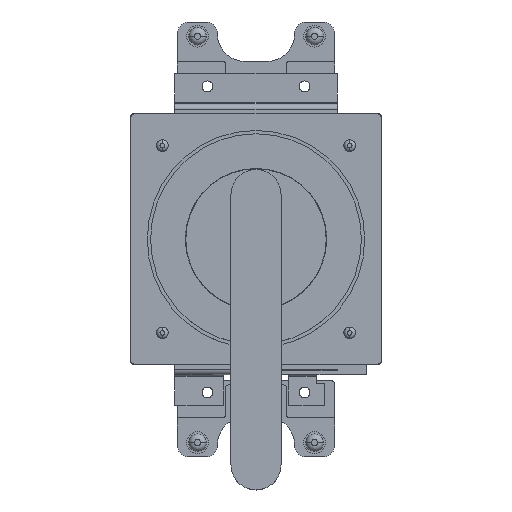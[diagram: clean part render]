
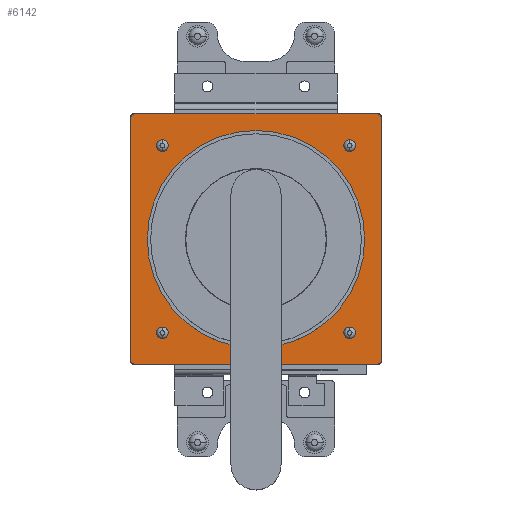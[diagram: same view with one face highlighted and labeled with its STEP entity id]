
A CAD part, top view. The second image highlights one B-rep face of the part: STEP entity #6142.
In plain terms, the highlighted planar face has unit normal (0, 0, 1).
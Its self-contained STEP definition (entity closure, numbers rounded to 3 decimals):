
#2654 = EDGE_CURVE( '', #7066, #5532, #7597, .T. );
#2798 = EDGE_CURVE( '', #6662, #6876, #7753, .T. );
#2822 = EDGE_CURVE( '', #4652, #6678, #7779, .T. );
#2858 = EDGE_CURVE( '', #5400, #6804, #7820, .T. );
#3184 = VERTEX_POINT( '', #8193 );
#3490 = VERTEX_POINT( '', #8526 );
#3566 = EDGE_CURVE( '', #5532, #4652, #8606, .T. );
#3856 = EDGE_CURVE( '', #4114, #7066, #8930, .T. );
#3936 = EDGE_CURVE( '', #5810, #6738, #9013, .T. );
#4114 = VERTEX_POINT( '', #9211 );
#4136 = EDGE_CURVE( '', #4694, #3490, #9235, .T. );
#4150 = EDGE_CURVE( '', #6876, #6662, #9249, .T. );
#4348 = VERTEX_POINT( '', #9463 );
#4594 = VERTEX_POINT( '', #9731 );
#4652 = VERTEX_POINT( '', #9799 );
#4694 = VERTEX_POINT( '', #9847 );
#4884 = EDGE_CURVE( '', #6804, #5400, #10052, .T. );
#5254 = EDGE_CURVE( '', #3490, #4694, #10467, .T. );
#5266 = VERTEX_POINT( '', #10481 );
#5400 = VERTEX_POINT( '', #10628 );
#5532 = VERTEX_POINT( '', #10775 );
#5674 = EDGE_CURVE( '', #4594, #4114, #10933, .T. );
#5710 = EDGE_CURVE( '', #4348, #5266, #10981, .T. );
#5738 = VERTEX_POINT( '', #11011 );
#5810 = VERTEX_POINT( '', #11094 );
#6142 = ADVANCED_FACE( '', ( #11469, #11470, #11471, #11472, #11473, #11474 ), #11475, .T. );
#6186 = EDGE_CURVE( '', #6678, #5738, #11521, .T. );
#6662 = VERTEX_POINT( '', #12053 );
#6678 = VERTEX_POINT( '', #12070 );
#6738 = VERTEX_POINT( '', #12134 );
#6804 = VERTEX_POINT( '', #12204 );
#6876 = VERTEX_POINT( '', #12285 );
#6962 = EDGE_CURVE( '', #3184, #4594, #12380, .T. );
#7066 = VERTEX_POINT( '', #12500 );
#7080 = EDGE_CURVE( '', #5266, #4348, #12515, .T. );
#7088 = EDGE_CURVE( '', #5738, #3184, #12523, .T. );
#7256 = EDGE_CURVE( '', #6738, #5810, #12711, .T. );
#7597 = LINE( '', #13105, #13106 );
#7753 = CIRCLE( '', #13308, 2. );
#7779 = LINE( '', #13343, #13344 );
#7820 = CIRCLE( '', #13398, 65. );
#8193 = CARTESIAN_POINT( '', ( -72., -75., 37.6 ) );
#8526 = CARTESIAN_POINT( '', ( 56., 54., 37.6 ) );
#8606 = CIRCLE( '', #14438, 3. );
#8930 = CIRCLE( '', #14872, 3. );
#9013 = CIRCLE( '', #14987, 2. );
#9211 = CARTESIAN_POINT( '', ( -75., 72., 37.6 ) );
#9235 = CIRCLE( '', #15295, 2. );
#9249 = CIRCLE( '', #15317, 2. );
#9463 = CARTESIAN_POINT( '', ( 56., -54., 37.6 ) );
#9731 = CARTESIAN_POINT( '', ( -75., -72., 37.6 ) );
#9799 = CARTESIAN_POINT( '', ( 75., 72., 37.6 ) );
#9847 = CARTESIAN_POINT( '', ( 56., 58., 37.6 ) );
#10052 = CIRCLE( '', #16401, 65. );
#10467 = CIRCLE( '', #16948, 2. );
#10481 = CARTESIAN_POINT( '', ( 56., -58., 37.6 ) );
#10628 = CARTESIAN_POINT( '', ( 0., -65., 37.6 ) );
#10775 = CARTESIAN_POINT( '', ( 72., 75., 37.6 ) );
#10933 = LINE( '', #17581, #17582 );
#10981 = CIRCLE( '', #17641, 2. );
#11011 = CARTESIAN_POINT( '', ( 72., -75., 37.6 ) );
#11094 = CARTESIAN_POINT( '', ( -56., 58., 37.6 ) );
#11469 = FACE_BOUND( '', #18276, .T. );
#11470 = FACE_OUTER_BOUND( '', #18277, .T. );
#11471 = FACE_BOUND( '', #18278, .T. );
#11472 = FACE_BOUND( '', #18279, .T. );
#11473 = FACE_BOUND( '', #18280, .T. );
#11474 = FACE_BOUND( '', #18281, .T. );
#11475 = PLANE( '', #18282 );
#11521 = CIRCLE( '', #18345, 3. );
#12053 = CARTESIAN_POINT( '', ( -56., -58., 37.6 ) );
#12070 = CARTESIAN_POINT( '', ( 75., -72., 37.6 ) );
#12134 = CARTESIAN_POINT( '', ( -56., 54., 37.6 ) );
#12204 = CARTESIAN_POINT( '', ( 0., 65., 37.6 ) );
#12285 = CARTESIAN_POINT( '', ( -56., -54., 37.6 ) );
#12380 = CIRCLE( '', #19507, 3. );
#12500 = CARTESIAN_POINT( '', ( -72., 75., 37.6 ) );
#12515 = CIRCLE( '', #19682, 2. );
#12523 = LINE( '', #19695, #19696 );
#12711 = CIRCLE( '', #19955, 2. );
#13105 = CARTESIAN_POINT( '', ( 72., 75., 37.6 ) );
#13106 = VECTOR( '', #20341, 1. );
#13308 = AXIS2_PLACEMENT_3D( '', #20486, #20487, #20488 );
#13343 = CARTESIAN_POINT( '', ( 75., -72., 37.6 ) );
#13344 = VECTOR( '', #20522, 1. );
#13398 = AXIS2_PLACEMENT_3D( '', #20576, #20577, #20578 );
#14438 = AXIS2_PLACEMENT_3D( '', #21511, #21512, #21513 );
#14872 = AXIS2_PLACEMENT_3D( '', #21933, #21934, #21935 );
#14987 = AXIS2_PLACEMENT_3D( '', #22001, #22002, #22003 );
#15295 = AXIS2_PLACEMENT_3D( '', #22253, #22254, #22255 );
#15317 = AXIS2_PLACEMENT_3D( '', #22272, #22273, #22274 );
#16401 = AXIS2_PLACEMENT_3D( '', #23150, #23151, #23152 );
#16948 = AXIS2_PLACEMENT_3D( '', #23643, #23644, #23645 );
#17581 = CARTESIAN_POINT( '', ( -75., 72., 37.6 ) );
#17582 = VECTOR( '', #24205, 1. );
#17641 = AXIS2_PLACEMENT_3D( '', #24305, #24306, #24307 );
#18276 = EDGE_LOOP( '', ( #24918, #24919 ) );
#18277 = EDGE_LOOP( '', ( #24920, #24921, #24922, #24923, #24924, #24925, #24926, #24927 ) );
#18278 = EDGE_LOOP( '', ( #24928, #24929 ) );
#18279 = EDGE_LOOP( '', ( #24930, #24931 ) );
#18280 = EDGE_LOOP( '', ( #24932, #24933 ) );
#18281 = EDGE_LOOP( '', ( #24934, #24935 ) );
#18282 = AXIS2_PLACEMENT_3D( '', #24936, #24937, #24938 );
#18345 = AXIS2_PLACEMENT_3D( '', #24982, #24983, #24984 );
#19507 = AXIS2_PLACEMENT_3D( '', #26029, #26030, #26031 );
#19682 = AXIS2_PLACEMENT_3D( '', #26202, #26203, #26204 );
#19695 = CARTESIAN_POINT( '', ( -72., -75., 37.6 ) );
#19696 = VECTOR( '', #26207, 1. );
#19955 = AXIS2_PLACEMENT_3D( '', #26433, #26434, #26435 );
#20341 = DIRECTION( '', ( 1., 0., 0. ) );
#20486 = CARTESIAN_POINT( '', ( -56., -56., 37.6 ) );
#20487 = DIRECTION( '', ( 0., 0., 1. ) );
#20488 = DIRECTION( '', ( 0., -1., 0. ) );
#20522 = DIRECTION( '', ( 0., -1., 0. ) );
#20576 = CARTESIAN_POINT( '', ( 0., 0., 37.6 ) );
#20577 = DIRECTION( '', ( 0., 0., -1. ) );
#20578 = DIRECTION( '', ( 0., -1., 0. ) );
#21511 = CARTESIAN_POINT( '', ( 72., 72., 37.6 ) );
#21512 = DIRECTION( '', ( 0., 0., -1. ) );
#21513 = DIRECTION( '', ( 1., 0., 0. ) );
#21933 = CARTESIAN_POINT( '', ( -72., 72., 37.6 ) );
#21934 = DIRECTION( '', ( 0., 0., -1. ) );
#21935 = DIRECTION( '', ( 0., 1., 0. ) );
#22001 = CARTESIAN_POINT( '', ( -56., 56., 37.6 ) );
#22002 = DIRECTION( '', ( 0., 0., 1. ) );
#22003 = DIRECTION( '', ( 0., -1., 0. ) );
#22253 = CARTESIAN_POINT( '', ( 56., 56., 37.6 ) );
#22254 = DIRECTION( '', ( 0., 0., 1. ) );
#22255 = DIRECTION( '', ( 0., -1., 0. ) );
#22272 = CARTESIAN_POINT( '', ( -56., -56., 37.6 ) );
#22273 = DIRECTION( '', ( 0., 0., 1. ) );
#22274 = DIRECTION( '', ( 0., -1., 0. ) );
#23150 = CARTESIAN_POINT( '', ( 0., 0., 37.6 ) );
#23151 = DIRECTION( '', ( 0., 0., -1. ) );
#23152 = DIRECTION( '', ( 0., -1., 0. ) );
#23643 = CARTESIAN_POINT( '', ( 56., 56., 37.6 ) );
#23644 = DIRECTION( '', ( 0., 0., 1. ) );
#23645 = DIRECTION( '', ( 0., -1., 0. ) );
#24205 = DIRECTION( '', ( 0., 1., 0. ) );
#24305 = CARTESIAN_POINT( '', ( 56., -56., 37.6 ) );
#24306 = DIRECTION( '', ( 0., 0., 1. ) );
#24307 = DIRECTION( '', ( 0., -1., 0. ) );
#24918 = ORIENTED_EDGE( '', *, *, #2858, .T. );
#24919 = ORIENTED_EDGE( '', *, *, #4884, .T. );
#24920 = ORIENTED_EDGE( '', *, *, #2654, .F. );
#24921 = ORIENTED_EDGE( '', *, *, #3856, .F. );
#24922 = ORIENTED_EDGE( '', *, *, #5674, .F. );
#24923 = ORIENTED_EDGE( '', *, *, #6962, .F. );
#24924 = ORIENTED_EDGE( '', *, *, #7088, .F. );
#24925 = ORIENTED_EDGE( '', *, *, #6186, .F. );
#24926 = ORIENTED_EDGE( '', *, *, #2822, .F. );
#24927 = ORIENTED_EDGE( '', *, *, #3566, .F. );
#24928 = ORIENTED_EDGE( '', *, *, #7080, .F. );
#24929 = ORIENTED_EDGE( '', *, *, #5710, .F. );
#24930 = ORIENTED_EDGE( '', *, *, #2798, .F. );
#24931 = ORIENTED_EDGE( '', *, *, #4150, .F. );
#24932 = ORIENTED_EDGE( '', *, *, #7256, .F. );
#24933 = ORIENTED_EDGE( '', *, *, #3936, .F. );
#24934 = ORIENTED_EDGE( '', *, *, #5254, .F. );
#24935 = ORIENTED_EDGE( '', *, *, #4136, .F. );
#24936 = CARTESIAN_POINT( '', ( 0., 0., 37.6 ) );
#24937 = DIRECTION( '', ( 0., 0., 1. ) );
#24938 = DIRECTION( '', ( 0., -1., 0. ) );
#24982 = CARTESIAN_POINT( '', ( 72., -72., 37.6 ) );
#24983 = DIRECTION( '', ( 0., 0., -1. ) );
#24984 = DIRECTION( '', ( 0., -1., 0. ) );
#26029 = CARTESIAN_POINT( '', ( -72., -72., 37.6 ) );
#26030 = DIRECTION( '', ( 0., 0., -1. ) );
#26031 = DIRECTION( '', ( -1., 0., 0. ) );
#26202 = CARTESIAN_POINT( '', ( 56., -56., 37.6 ) );
#26203 = DIRECTION( '', ( 0., 0., 1. ) );
#26204 = DIRECTION( '', ( 0., -1., 0. ) );
#26207 = DIRECTION( '', ( -1., 0., 0. ) );
#26433 = CARTESIAN_POINT( '', ( -56., 56., 37.6 ) );
#26434 = DIRECTION( '', ( 0., 0., 1. ) );
#26435 = DIRECTION( '', ( 0., -1., 0. ) );
